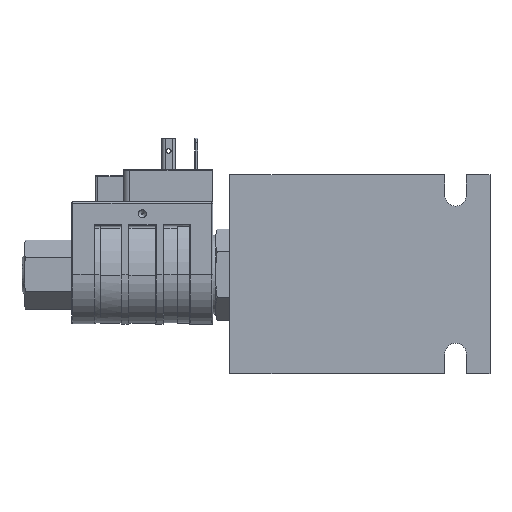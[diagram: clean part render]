
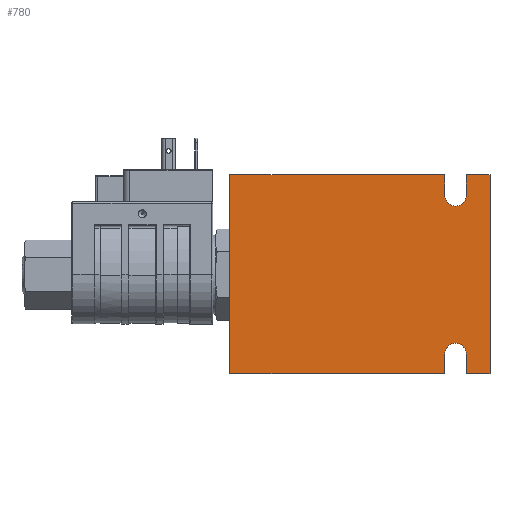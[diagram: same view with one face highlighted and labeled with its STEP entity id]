
A CAD part, front view. The second image highlights one B-rep face of the part: STEP entity #780.
In plain terms, the highlighted planar face has unit normal (0, -1, 0) as drawn and (0, 1, 0) by its records, which use the part's own axes.
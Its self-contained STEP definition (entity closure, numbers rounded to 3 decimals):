
#780 = ADVANCED_FACE( '', ( #1723 ), #1724, .T. );
#1723 = FACE_OUTER_BOUND( '', #3261, .T. );
#1724 = PLANE( '', #3262 );
#3261 = EDGE_LOOP( '', ( #5095, #5096, #5097, #5098, #5099, #5100, #5101, #5102, #5103, #5104, #5105, #5106 ) );
#3262 = AXIS2_PLACEMENT_3D( '', #5107, #5108, #5109 );
#5095 = ORIENTED_EDGE( '', *, *, #8067, .F. );
#5096 = ORIENTED_EDGE( '', *, *, #8068, .F. );
#5097 = ORIENTED_EDGE( '', *, *, #8069, .F. );
#5098 = ORIENTED_EDGE( '', *, *, #8070, .T. );
#5099 = ORIENTED_EDGE( '', *, *, #8071, .T. );
#5100 = ORIENTED_EDGE( '', *, *, #8072, .T. );
#5101 = ORIENTED_EDGE( '', *, *, #8073, .T. );
#5102 = ORIENTED_EDGE( '', *, *, #8074, .T. );
#5103 = ORIENTED_EDGE( '', *, *, #8075, .T. );
#5104 = ORIENTED_EDGE( '', *, *, #7923, .F. );
#5105 = ORIENTED_EDGE( '', *, *, #8076, .F. );
#5106 = ORIENTED_EDGE( '', *, *, #7885, .F. );
#5107 = CARTESIAN_POINT( '', ( -41.5, 19.05, 63.5 ) );
#5108 = DIRECTION( '', ( 0., 1., 0. ) );
#5109 = DIRECTION( '', ( -1., 0., 0. ) );
#7885 = EDGE_CURVE( '', #9949, #9950, #9951, .T. );
#7923 = EDGE_CURVE( '', #10015, #10018, #10019, .T. );
#8067 = EDGE_CURVE( '', #10265, #9949, #10266, .T. );
#8068 = EDGE_CURVE( '', #10267, #10265, #10268, .T. );
#8069 = EDGE_CURVE( '', #10269, #10267, #10270, .T. );
#8070 = EDGE_CURVE( '', #10269, #10271, #10272, .T. );
#8071 = EDGE_CURVE( '', #10271, #10273, #10274, .T. );
#8072 = EDGE_CURVE( '', #10273, #10275, #10276, .F. );
#8073 = EDGE_CURVE( '', #10275, #10277, #10278, .T. );
#8074 = EDGE_CURVE( '', #10277, #10279, #10280, .T. );
#8075 = EDGE_CURVE( '', #10279, #10018, #10281, .T. );
#8076 = EDGE_CURVE( '', #9950, #10015, #10282, .T. );
#9949 = VERTEX_POINT( '', #11885 );
#9950 = VERTEX_POINT( '', #11886 );
#9951 = CIRCLE( '', #11887, 3.5 );
#10015 = VERTEX_POINT( '', #11990 );
#10018 = VERTEX_POINT( '', #11994 );
#10019 = LINE( '', #11995, #11996 );
#10265 = VERTEX_POINT( '', #12657 );
#10266 = LINE( '', #12658, #12659 );
#10267 = VERTEX_POINT( '', #12660 );
#10268 = LINE( '', #12661, #12662 );
#10269 = VERTEX_POINT( '', #12663 );
#10270 = LINE( '', #12664, #12665 );
#10271 = VERTEX_POINT( '', #12666 );
#10272 = LINE( '', #12667, #12668 );
#10273 = VERTEX_POINT( '', #12669 );
#10274 = LINE( '', #12670, #12671 );
#10275 = VERTEX_POINT( '', #12672 );
#10276 = CIRCLE( '', #12673, 3.5 );
#10277 = VERTEX_POINT( '', #12674 );
#10278 = LINE( '', #12675, #12676 );
#10279 = VERTEX_POINT( '', #12677 );
#10280 = LINE( '', #12678, #12679 );
#10281 = LINE( '', #12680, #12681 );
#10282 = LINE( '', #12682, #12683 );
#11885 = CARTESIAN_POINT( '', ( -34., 19.05, 6.3 ) );
#11886 = CARTESIAN_POINT( '', ( -27., 19.05, 6.3 ) );
#11887 = AXIS2_PLACEMENT_3D( '', #15667, #15668, #15669 );
#11990 = CARTESIAN_POINT( '', ( -27., 19.05, 0. ) );
#11994 = CARTESIAN_POINT( '', ( 41.5, 19.05, 0. ) );
#11995 = CARTESIAN_POINT( '', ( -41.5, 19.05, 0. ) );
#11996 = VECTOR( '', #15700, 1000. );
#12657 = CARTESIAN_POINT( '', ( -34., 19.05, 0. ) );
#12658 = CARTESIAN_POINT( '', ( -34., 19.05, 63.5 ) );
#12659 = VECTOR( '', #15826, 1000. );
#12660 = CARTESIAN_POINT( '', ( -41.5, 19.05, 0. ) );
#12661 = CARTESIAN_POINT( '', ( -41.5, 19.05, 0. ) );
#12662 = VECTOR( '', #15827, 1000. );
#12663 = CARTESIAN_POINT( '', ( -41.5, 19.05, 63.5 ) );
#12664 = CARTESIAN_POINT( '', ( -41.5, 19.05, 63.5 ) );
#12665 = VECTOR( '', #15828, 1000. );
#12666 = CARTESIAN_POINT( '', ( -34., 19.05, 63.5 ) );
#12667 = CARTESIAN_POINT( '', ( -41.5, 19.05, 63.5 ) );
#12668 = VECTOR( '', #15829, 1000. );
#12669 = CARTESIAN_POINT( '', ( -34., 19.05, 57.1 ) );
#12670 = CARTESIAN_POINT( '', ( -34., 19.05, 63.5 ) );
#12671 = VECTOR( '', #15830, 1000. );
#12672 = CARTESIAN_POINT( '', ( -27., 19.05, 57.1 ) );
#12673 = AXIS2_PLACEMENT_3D( '', #15831, #15832, #15833 );
#12674 = CARTESIAN_POINT( '', ( -27., 19.05, 63.5 ) );
#12675 = CARTESIAN_POINT( '', ( -27., 19.05, 63.5 ) );
#12676 = VECTOR( '', #15834, 1000. );
#12677 = CARTESIAN_POINT( '', ( 41.5, 19.05, 63.5 ) );
#12678 = CARTESIAN_POINT( '', ( -41.5, 19.05, 63.5 ) );
#12679 = VECTOR( '', #15835, 1000. );
#12680 = CARTESIAN_POINT( '', ( 41.5, 19.05, 63.5 ) );
#12681 = VECTOR( '', #15836, 1000. );
#12682 = CARTESIAN_POINT( '', ( -27., 19.05, 63.5 ) );
#12683 = VECTOR( '', #15837, 1000. );
#15667 = CARTESIAN_POINT( '', ( -30.5, 19.05, 6.3 ) );
#15668 = DIRECTION( '', ( 0., 1., 0. ) );
#15669 = DIRECTION( '', ( -1., 0., 0. ) );
#15700 = DIRECTION( '', ( 1., 0., 0. ) );
#15826 = DIRECTION( '', ( 0., 0., 1. ) );
#15827 = DIRECTION( '', ( 1., 0., 0. ) );
#15828 = DIRECTION( '', ( 0., 0., -1. ) );
#15829 = DIRECTION( '', ( 1., 0., 0. ) );
#15830 = DIRECTION( '', ( 0., 0., -1. ) );
#15831 = CARTESIAN_POINT( '', ( -30.5, 19.05, 57.1 ) );
#15832 = DIRECTION( '', ( 0., 1., 0. ) );
#15833 = DIRECTION( '', ( -1., 0., 0. ) );
#15834 = DIRECTION( '', ( 0., 0., 1. ) );
#15835 = DIRECTION( '', ( 1., 0., 0. ) );
#15836 = DIRECTION( '', ( 0., 0., -1. ) );
#15837 = DIRECTION( '', ( 0., 0., -1. ) );
